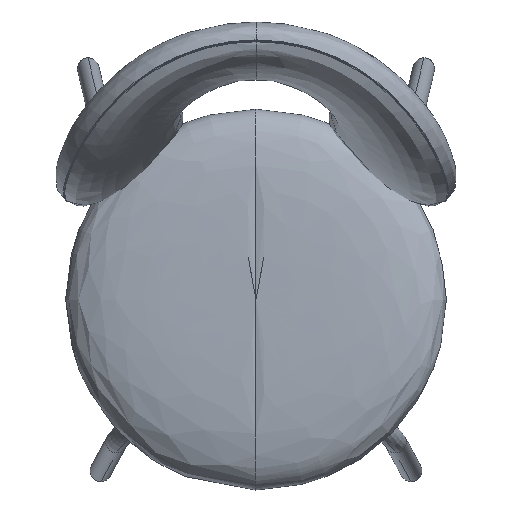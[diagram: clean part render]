
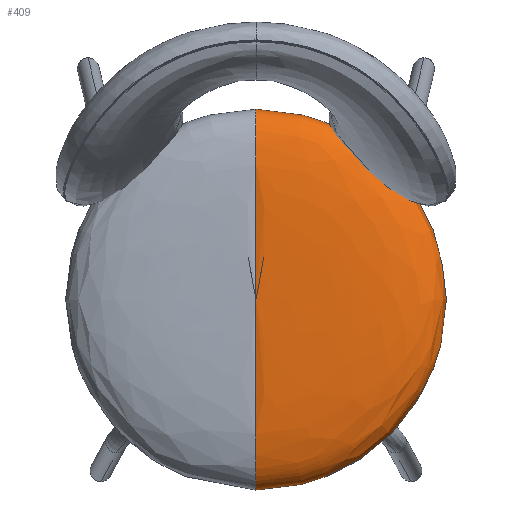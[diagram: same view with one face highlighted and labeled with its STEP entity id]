
A CAD part, top view. The second image highlights one B-rep face of the part: STEP entity #409.
In plain terms, the highlighted free-form (B-spline) face has degree [3, 2] with [8, 5] control points.
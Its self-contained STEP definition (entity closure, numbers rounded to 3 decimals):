
#89=B_SPLINE_CURVE_WITH_KNOTS('',3,(#38176,#38177,#38178,#38179,#38180,
#38181,#38182,#38183),.UNSPECIFIED.,.F.,.F.,(4,3,1,4),(-265.,
0.,117.5,235.),.UNSPECIFIED.);
#90=B_SPLINE_CURVE_WITH_KNOTS('',3,(#38184,#38185,#38186,#38187,#38188,
#38189,#38190,#38191),.UNSPECIFIED.,.F.,.F.,(4,3,1,4),(-265.,
0.,117.5,235.),.UNSPECIFIED.);
#409=ADVANCED_FACE('',(#505),#2045,.T.);
#505=FACE_OUTER_BOUND('',#601,.T.);
#601=EDGE_LOOP('',(#993,#994));
#993=ORIENTED_EDGE('',*,*,#1339,.T.);
#994=ORIENTED_EDGE('',*,*,#1340,.F.);
#1339=EDGE_CURVE('',#1991,#1992,#89,.T.);
#1340=EDGE_CURVE('',#1991,#1992,#90,.T.);
#1991=VERTEX_POINT('',#38174);
#1992=VERTEX_POINT('',#38175);
#2045=(
BOUNDED_SURFACE()
B_SPLINE_SURFACE(3,2,((#38094,#38095,#38096,#38097,#38098),(#38099,#38100,
#38101,#38102,#38103),(#38104,#38105,#38106,#38107,#38108),(#38109,#38110,
#38111,#38112,#38113),(#38114,#38115,#38116,#38117,#38118),(#38119,#38120,
#38121,#38122,#38123),(#38124,#38125,#38126,#38127,#38128),(#38129,#38130,
#38131,#38132,#38133)),.UNSPECIFIED.,.F.,.F.,.F.)
B_SPLINE_SURFACE_WITH_KNOTS((4,3,1,4),(3,2,3),(-265.,0.,117.5,
235.),(0.,345.574,691.148),.UNSPECIFIED.)
GEOMETRIC_REPRESENTATION_ITEM()
RATIONAL_B_SPLINE_SURFACE(((1.,0.707,1.,0.707,1.),
(1.,0.707,1.,0.707,1.),(1.,0.707,1.,
0.707,1.),(1.,0.707,1.,0.707,1.),(1.,
0.707,1.,0.707,1.),(1.,0.707,1.,0.707,
1.),(1.,0.707,1.,0.707,1.),(1.,0.707,
1.,0.707,1.)))
REPRESENTATION_ITEM('')
SURFACE()
);
#38094=CARTESIAN_POINT('',(-20.384,99.115,470.));
#38095=CARTESIAN_POINT('',(-20.384,99.115,470.));
#38096=CARTESIAN_POINT('',(-20.384,99.115,470.));
#38097=CARTESIAN_POINT('',(-20.384,99.115,470.));
#38098=CARTESIAN_POINT('',(-20.384,99.115,470.));
#38099=CARTESIAN_POINT('',(-20.384,-39.265,470.));
#38100=CARTESIAN_POINT('',(117.996,-39.265,470.));
#38101=CARTESIAN_POINT('',(117.996,99.115,470.));
#38102=CARTESIAN_POINT('',(117.996,237.495,470.));
#38103=CARTESIAN_POINT('',(-20.384,237.495,470.));
#38104=CARTESIAN_POINT('',(-20.384,-120.885,470.));
#38105=CARTESIAN_POINT('',(199.616,-120.885,470.));
#38106=CARTESIAN_POINT('',(199.616,99.115,470.));
#38107=CARTESIAN_POINT('',(199.616,319.115,470.));
#38108=CARTESIAN_POINT('',(-20.384,319.115,470.));
#38109=CARTESIAN_POINT('',(-20.384,-120.885,425.));
#38110=CARTESIAN_POINT('',(199.616,-120.885,425.));
#38111=CARTESIAN_POINT('',(199.616,99.115,425.));
#38112=CARTESIAN_POINT('',(199.616,319.115,425.));
#38113=CARTESIAN_POINT('',(-20.384,319.115,425.));
#38114=CARTESIAN_POINT('',(-20.384,-120.885,410.));
#38115=CARTESIAN_POINT('',(199.616,-120.885,410.));
#38116=CARTESIAN_POINT('',(199.616,99.115,410.));
#38117=CARTESIAN_POINT('',(199.616,319.115,410.));
#38118=CARTESIAN_POINT('',(-20.384,319.115,410.));
#38119=CARTESIAN_POINT('',(-20.384,-106.164,410.));
#38120=CARTESIAN_POINT('',(184.895,-106.164,410.));
#38121=CARTESIAN_POINT('',(184.895,99.115,410.));
#38122=CARTESIAN_POINT('',(184.895,304.394,410.));
#38123=CARTESIAN_POINT('',(-20.384,304.394,410.));
#38124=CARTESIAN_POINT('',(-20.384,-70.003,410.));
#38125=CARTESIAN_POINT('',(148.734,-70.003,410.));
#38126=CARTESIAN_POINT('',(148.734,99.115,410.));
#38127=CARTESIAN_POINT('',(148.734,268.233,410.));
#38128=CARTESIAN_POINT('',(-20.384,268.233,410.));
#38129=CARTESIAN_POINT('',(-20.384,99.115,410.));
#38130=CARTESIAN_POINT('',(-20.384,99.115,410.));
#38131=CARTESIAN_POINT('',(-20.384,99.115,410.));
#38132=CARTESIAN_POINT('',(-20.384,99.115,410.));
#38133=CARTESIAN_POINT('',(-20.384,99.115,410.));
#38174=CARTESIAN_POINT('',(-20.384,99.115,470.));
#38175=CARTESIAN_POINT('',(-20.384,99.115,410.));
#38176=CARTESIAN_POINT('',(-20.384,99.115,470.));
#38177=CARTESIAN_POINT('',(-20.384,-39.265,470.));
#38178=CARTESIAN_POINT('',(-20.384,-120.885,470.));
#38179=CARTESIAN_POINT('',(-20.384,-120.885,425.));
#38180=CARTESIAN_POINT('',(-20.384,-120.885,410.));
#38181=CARTESIAN_POINT('',(-20.384,-106.164,410.));
#38182=CARTESIAN_POINT('',(-20.384,-70.003,410.));
#38183=CARTESIAN_POINT('',(-20.384,99.115,410.));
#38184=CARTESIAN_POINT('',(-20.384,99.115,470.));
#38185=CARTESIAN_POINT('',(-20.384,237.495,470.));
#38186=CARTESIAN_POINT('',(-20.384,319.115,470.));
#38187=CARTESIAN_POINT('',(-20.384,319.115,425.));
#38188=CARTESIAN_POINT('',(-20.384,319.115,410.));
#38189=CARTESIAN_POINT('',(-20.384,304.394,410.));
#38190=CARTESIAN_POINT('',(-20.384,268.233,410.));
#38191=CARTESIAN_POINT('',(-20.384,99.115,410.));
